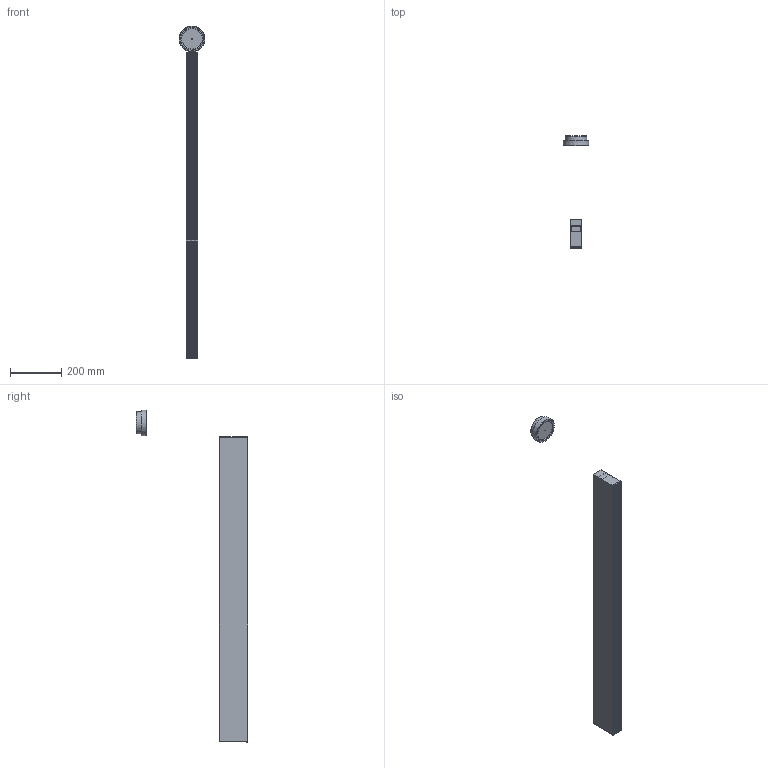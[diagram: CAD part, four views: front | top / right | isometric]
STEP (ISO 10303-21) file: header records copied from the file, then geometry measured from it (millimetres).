
FILE_DESCRIPTION(/* description */ (''),/* implementation_level */ '2;1');
FILE_NAME(/* name */ 'D:\_SHARED\_PROGETTI IN CORSO\Artemide\3D Semplificati\Algoritmo\ASM Semplificati\EXPORT MODELLI SEMPLIFICATI\07.ipt.stp',/* time_stamp */ '2018-02-23T06:07:22-08:00',/* author */ ('NEGRI'),/* organization */ (''),/* preprocessor_version */ 'ST-DEVELOPER v16.13',/* originating_system */ 'Autodesk Inventor 2018',/* authorisation */ '');
FILE_SCHEMA (('AUTOMOTIVE_DESIGN { 1 0 10303 214 3 1 1 }'));
Length unit declared in the file: metre
Products named in the file (1): 07.x_t
Bounding box: 100.35 x 435.9 x 1293.85 mm (x, y, z)
Volume: 1930426.4 mm3; surface area: 947837 mm2
Topology: 9 solids, 9 shells, 177 faces, 461 edges, 306 vertices
Faces by surface type: plane 115, cylinder 50, torus 5, bspline 4, cone 3
Full cylindrical faces by diameter (mm): 2 x1, 80 x1, 82.6 x1, 85 x1
Entity records: 5657 total; most frequent: CARTESIAN_POINT 1231, ORIENTED_EDGE 890, DIRECTION 885, EDGE_CURVE 445, LINE 333, VECTOR 333, VERTEX_POINT 302, AXIS2_PLACEMENT_3D 276
